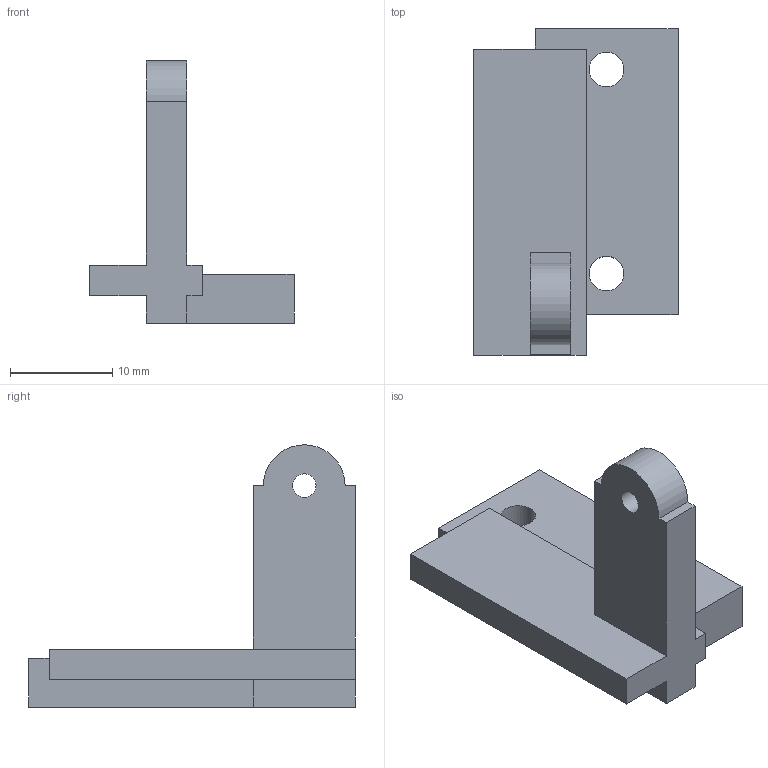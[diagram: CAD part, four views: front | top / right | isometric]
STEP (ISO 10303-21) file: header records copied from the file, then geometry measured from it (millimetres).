
FILE_DESCRIPTION(('Open CASCADE Model'),'2;1');
FILE_NAME('DEM_bracket','2026-11-05T16:12:39',('Author'),('Open CASCADE' ),'Open CASCADE STEP processor 7.9','build123d','Unknown');
FILE_SCHEMA(('AUTOMOTIVE_DESIGN { 1 0 10303 214 1 1 1 1 }'));
Length unit declared in the file: millimetre
Products named in the file (2): DEM_bracket
Assembly tree (1 placements, depth 2):
  DEM_bracket
    DEM_bracket
Bounding box: 20 x 32 x 25.71 mm (x, y, z)
Volume: 3287 mm3; surface area: 2330.9 mm2
Topology: 1 solids, 1 shells, 25 faces, 69 edges, 46 vertices
Faces by surface type: plane 21, cylinder 4
Full cylindrical faces by diameter (mm): 2.3 x1, 3.4 x2
Entity records: 1750 total; most frequent: CARTESIAN_POINT 282, DIRECTION 267, LINE 189, VECTOR 189, ORIENTED_EDGE 138, PCURVE 138, DEFINITIONAL_REPRESENTATION 138, EDGE_CURVE 69
